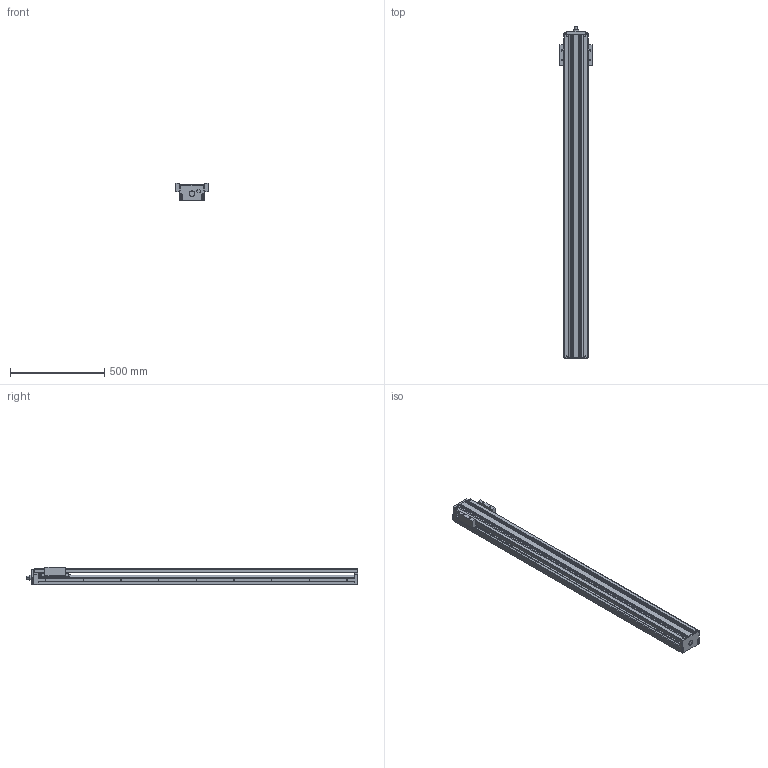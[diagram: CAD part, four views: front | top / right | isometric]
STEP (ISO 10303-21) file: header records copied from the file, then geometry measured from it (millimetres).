
FILE_DESCRIPTION(('no description'),'unknown implementation level');
FILE_NAME('KK13025P1680A1H0C00_FILE_59.stp',' ',('HIWIN GmbH'),('CADClick - KiM GmbH - www.kimweb.de'),'unknown preprocess','ACIS','unknown authorization');
FILE_SCHEMA(('automotive_design'));
Length unit declared in the file: millimetre
Products named in the file (2): KK130_FILE; KK13025P1680A1H0C00_FILE
Bounding box: 170 x 1762 x 94 mm (x, y, z)
Volume: 7619908.5 mm3; surface area: 1547555.4 mm2
Topology: 2 solids, 17 shells, 976 faces, 2450 edges, 1591 vertices
Faces by surface type: plane 586, cylinder 340, torus 46, cone 2, sphere 2
Entity records: 57494 total; most frequent: DIRECTION 5256, CARTESIAN_POINT 5125, STYLED_ITEM 5017, PRESENTATION_STYLE_ASSIGNMENT 5017, COLOUR_RGB 5017, ORIENTED_EDGE 4896, EDGE_CURVE 2448, CURVE_STYLE 2448
